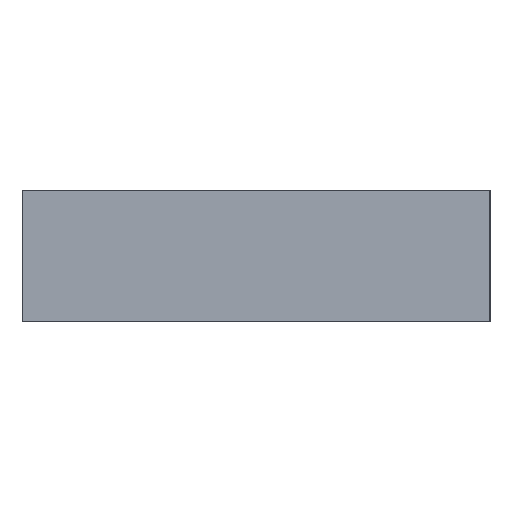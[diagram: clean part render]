
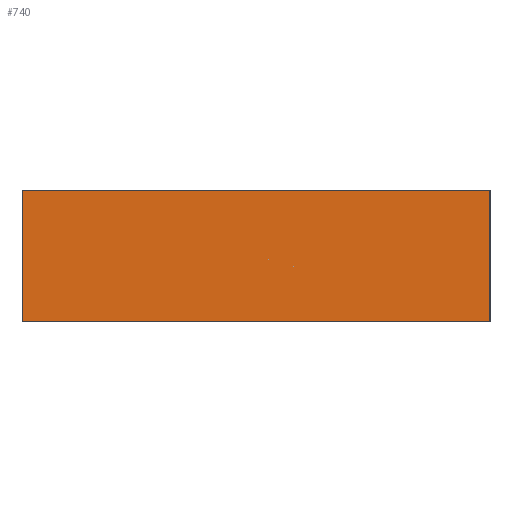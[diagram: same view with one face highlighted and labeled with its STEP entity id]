
A CAD part, left-side view. The second image highlights one B-rep face of the part: STEP entity #740.
In plain terms, the highlighted planar face has unit normal (-1, 0, 0).
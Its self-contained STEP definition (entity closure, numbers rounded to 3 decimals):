
#21 = EDGE_CURVE('',#22,#24,#26,.T.);
#22 = VERTEX_POINT('',#23);
#23 = CARTESIAN_POINT('',(0.,0.,0.));
#24 = VERTEX_POINT('',#25);
#25 = CARTESIAN_POINT('',(0.,0.,2.8));
#26 = SURFACE_CURVE('',#27,(#31,#43),.PCURVE_S1.);
#27 = LINE('',#28,#29);
#28 = CARTESIAN_POINT('',(0.,0.,0.));
#29 = VECTOR('',#30,1.);
#30 = DIRECTION('',(0.,0.,1.));
#31 = PCURVE('',#32,#37);
#32 = PLANE('',#33);
#33 = AXIS2_PLACEMENT_3D('',#34,#35,#36);
#34 = CARTESIAN_POINT('',(0.,0.,0.));
#35 = DIRECTION('',(0.,1.,0.));
#36 = DIRECTION('',(1.,0.,0.));
#37 = DEFINITIONAL_REPRESENTATION('',(#38),#42);
#38 = LINE('',#39,#40);
#39 = CARTESIAN_POINT('',(0.,0.));
#40 = VECTOR('',#41,1.);
#41 = DIRECTION('',(0.,-1.));
#42 = ( GEOMETRIC_REPRESENTATION_CONTEXT(2) 
PARAMETRIC_REPRESENTATION_CONTEXT() REPRESENTATION_CONTEXT('2D SPACE',''
  ) );
#43 = PCURVE('',#44,#49);
#44 = PLANE('',#45);
#45 = AXIS2_PLACEMENT_3D('',#46,#47,#48);
#46 = CARTESIAN_POINT('',(0.,10.,0.));
#47 = DIRECTION('',(1.,0.,-0.));
#48 = DIRECTION('',(0.,-1.,0.));
#49 = DEFINITIONAL_REPRESENTATION('',(#50),#54);
#50 = LINE('',#51,#52);
#51 = CARTESIAN_POINT('',(10.,0.));
#52 = VECTOR('',#53,1.);
#53 = DIRECTION('',(0.,-1.));
#54 = ( GEOMETRIC_REPRESENTATION_CONTEXT(2) 
PARAMETRIC_REPRESENTATION_CONTEXT() REPRESENTATION_CONTEXT('2D SPACE',''
  ) );
#72 = PLANE('',#73);
#73 = AXIS2_PLACEMENT_3D('',#74,#75,#76);
#74 = CARTESIAN_POINT('',(10.,5.,2.8));
#75 = DIRECTION('',(0.,0.,1.));
#76 = DIRECTION('',(1.,0.,-0.));
#126 = PLANE('',#127);
#127 = AXIS2_PLACEMENT_3D('',#128,#129,#130);
#128 = CARTESIAN_POINT('',(10.,5.,0.));
#129 = DIRECTION('',(0.,0.,1.));
#130 = DIRECTION('',(1.,0.,-0.));
#637 = PLANE('',#638);
#638 = AXIS2_PLACEMENT_3D('',#639,#640,#641);
#639 = CARTESIAN_POINT('',(3.,10.,0.));
#640 = DIRECTION('',(0.,-1.,0.));
#641 = DIRECTION('',(-1.,0.,0.));
#675 = VERTEX_POINT('',#676);
#676 = CARTESIAN_POINT('',(0.,10.,2.8));
#697 = EDGE_CURVE('',#698,#675,#700,.T.);
#698 = VERTEX_POINT('',#699);
#699 = CARTESIAN_POINT('',(0.,10.,0.));
#700 = SURFACE_CURVE('',#701,(#705,#712),.PCURVE_S1.);
#701 = LINE('',#702,#703);
#702 = CARTESIAN_POINT('',(0.,10.,0.));
#703 = VECTOR('',#704,1.);
#704 = DIRECTION('',(0.,0.,1.));
#705 = PCURVE('',#637,#706);
#706 = DEFINITIONAL_REPRESENTATION('',(#707),#711);
#707 = LINE('',#708,#709);
#708 = CARTESIAN_POINT('',(3.,0.));
#709 = VECTOR('',#710,1.);
#710 = DIRECTION('',(0.,-1.));
#711 = ( GEOMETRIC_REPRESENTATION_CONTEXT(2) 
PARAMETRIC_REPRESENTATION_CONTEXT() REPRESENTATION_CONTEXT('2D SPACE',''
  ) );
#712 = PCURVE('',#44,#713);
#713 = DEFINITIONAL_REPRESENTATION('',(#714),#718);
#714 = LINE('',#715,#716);
#715 = CARTESIAN_POINT('',(0.,0.));
#716 = VECTOR('',#717,1.);
#717 = DIRECTION('',(0.,-1.));
#718 = ( GEOMETRIC_REPRESENTATION_CONTEXT(2) 
PARAMETRIC_REPRESENTATION_CONTEXT() REPRESENTATION_CONTEXT('2D SPACE',''
  ) );
#740 = ADVANCED_FACE('',(#741),#44,.F.);
#741 = FACE_BOUND('',#742,.F.);
#742 = EDGE_LOOP('',(#743,#744,#765,#766));
#743 = ORIENTED_EDGE('',*,*,#697,.T.);
#744 = ORIENTED_EDGE('',*,*,#745,.T.);
#745 = EDGE_CURVE('',#675,#24,#746,.T.);
#746 = SURFACE_CURVE('',#747,(#751,#758),.PCURVE_S1.);
#747 = LINE('',#748,#749);
#748 = CARTESIAN_POINT('',(0.,10.,2.8));
#749 = VECTOR('',#750,1.);
#750 = DIRECTION('',(0.,-1.,0.));
#751 = PCURVE('',#44,#752);
#752 = DEFINITIONAL_REPRESENTATION('',(#753),#757);
#753 = LINE('',#754,#755);
#754 = CARTESIAN_POINT('',(0.,-2.8));
#755 = VECTOR('',#756,1.);
#756 = DIRECTION('',(1.,0.));
#757 = ( GEOMETRIC_REPRESENTATION_CONTEXT(2) 
PARAMETRIC_REPRESENTATION_CONTEXT() REPRESENTATION_CONTEXT('2D SPACE',''
  ) );
#758 = PCURVE('',#72,#759);
#759 = DEFINITIONAL_REPRESENTATION('',(#760),#764);
#760 = LINE('',#761,#762);
#761 = CARTESIAN_POINT('',(-10.,5.));
#762 = VECTOR('',#763,1.);
#763 = DIRECTION('',(0.,-1.));
#764 = ( GEOMETRIC_REPRESENTATION_CONTEXT(2) 
PARAMETRIC_REPRESENTATION_CONTEXT() REPRESENTATION_CONTEXT('2D SPACE',''
  ) );
#765 = ORIENTED_EDGE('',*,*,#21,.F.);
#766 = ORIENTED_EDGE('',*,*,#767,.F.);
#767 = EDGE_CURVE('',#698,#22,#768,.T.);
#768 = SURFACE_CURVE('',#769,(#773,#780),.PCURVE_S1.);
#769 = LINE('',#770,#771);
#770 = CARTESIAN_POINT('',(0.,10.,0.));
#771 = VECTOR('',#772,1.);
#772 = DIRECTION('',(0.,-1.,0.));
#773 = PCURVE('',#44,#774);
#774 = DEFINITIONAL_REPRESENTATION('',(#775),#779);
#775 = LINE('',#776,#777);
#776 = CARTESIAN_POINT('',(0.,0.));
#777 = VECTOR('',#778,1.);
#778 = DIRECTION('',(1.,0.));
#779 = ( GEOMETRIC_REPRESENTATION_CONTEXT(2) 
PARAMETRIC_REPRESENTATION_CONTEXT() REPRESENTATION_CONTEXT('2D SPACE',''
  ) );
#780 = PCURVE('',#126,#781);
#781 = DEFINITIONAL_REPRESENTATION('',(#782),#786);
#782 = LINE('',#783,#784);
#783 = CARTESIAN_POINT('',(-10.,5.));
#784 = VECTOR('',#785,1.);
#785 = DIRECTION('',(0.,-1.));
#786 = ( GEOMETRIC_REPRESENTATION_CONTEXT(2) 
PARAMETRIC_REPRESENTATION_CONTEXT() REPRESENTATION_CONTEXT('2D SPACE',''
  ) );
